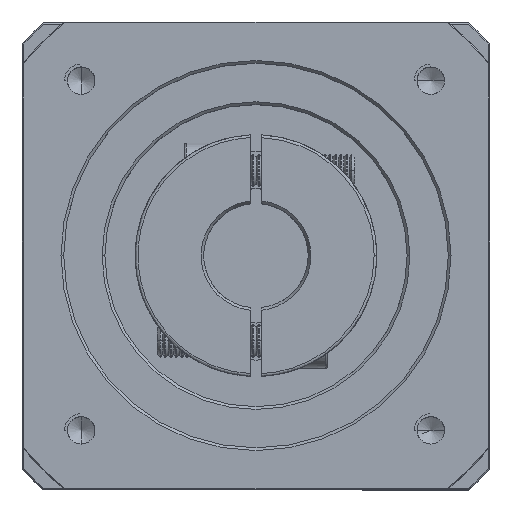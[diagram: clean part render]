
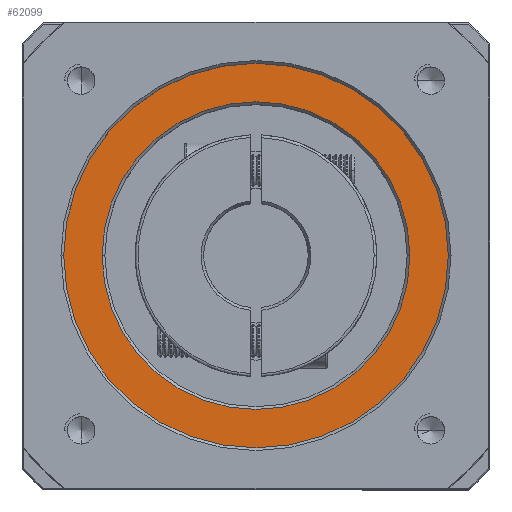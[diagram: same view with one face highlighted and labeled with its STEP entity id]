
A CAD part, top view. The second image highlights one B-rep face of the part: STEP entity #62099.
In plain terms, the highlighted planar face has unit normal (0, 0, 1).
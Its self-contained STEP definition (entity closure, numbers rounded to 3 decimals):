
#568 = CIRCLE ( 'NONE', #11037, 35. ) ;
#11037 = AXIS2_PLACEMENT_3D ( 'NONE', #76786, #77634, #107147 ) ;
#11832 = PLANE ( 'NONE',  #83793 ) ;
#13083 = FACE_OUTER_BOUND ( 'NONE', #13355, .T. ) ;
#13355 = EDGE_LOOP ( 'NONE', ( #52543, #41181 ) ) ;
#14430 = CIRCLE ( 'NONE', #60758, 35. ) ;
#16037 = EDGE_LOOP ( 'NONE', ( #108345, #67647 ) ) ;
#22080 = DIRECTION ( 'NONE',  ( 0., 0., 1. ) ) ;
#23559 = AXIS2_PLACEMENT_3D ( 'NONE', #53441, #73460, #122533 ) ;
#26311 = VERTEX_POINT ( 'NONE', #70924 ) ;
#29789 = AXIS2_PLACEMENT_3D ( 'NONE', #81321, #102605, #63071 ) ;
#41181 = ORIENTED_EDGE ( 'NONE', *, *, #115440, .T. ) ;
#43912 = CARTESIAN_POINT ( 'NONE',  ( -51.678, 33.802, 14.609 ) ) ;
#46433 = VERTEX_POINT ( 'NONE', #125448 ) ;
#52543 = ORIENTED_EDGE ( 'NONE', *, *, #58028, .T. ) ;
#53441 = CARTESIAN_POINT ( 'NONE',  ( -51.678, 33.802, 14.609 ) ) ;
#58028 = EDGE_CURVE ( 'NONE', #46433, #74926, #14430, .T. ) ;
#60758 = AXIS2_PLACEMENT_3D ( 'NONE', #71604, #22080, #111533 ) ;
#61682 = CIRCLE ( 'NONE', #29789, 28. ) ;
#62099 = ADVANCED_FACE ( 'NONE', ( #13083, #65924 ), #11832, .T. ) ;
#63071 = DIRECTION ( 'NONE',  ( 1., 0., 0. ) ) ;
#65924 = FACE_BOUND ( 'NONE', #16037, .T. ) ;
#67647 = ORIENTED_EDGE ( 'NONE', *, *, #109803, .T. ) ;
#70924 = CARTESIAN_POINT ( 'NONE',  ( -79.678, 33.802, 14.609 ) ) ;
#71604 = CARTESIAN_POINT ( 'NONE',  ( -51.678, 33.802, 14.609 ) ) ;
#73247 = CIRCLE ( 'NONE', #23559, 28. ) ;
#73460 = DIRECTION ( 'NONE',  ( 0., 0., -1. ) ) ;
#74354 = DIRECTION ( 'NONE',  ( 0., 0., 1. ) ) ;
#74926 = VERTEX_POINT ( 'NONE', #75175 ) ;
#75175 = CARTESIAN_POINT ( 'NONE',  ( -86.678, 33.802, 14.609 ) ) ;
#76786 = CARTESIAN_POINT ( 'NONE',  ( -51.678, 33.802, 14.609 ) ) ;
#77634 = DIRECTION ( 'NONE',  ( 0., 0., 1. ) ) ;
#81321 = CARTESIAN_POINT ( 'NONE',  ( -51.678, 33.802, 14.609 ) ) ;
#83793 = AXIS2_PLACEMENT_3D ( 'NONE', #43912, #74354, #83888 ) ;
#83888 = DIRECTION ( 'NONE',  ( 1., 0., 0. ) ) ;
#88654 = EDGE_CURVE ( 'NONE', #114897, #26311, #61682, .T. ) ;
#101107 = CARTESIAN_POINT ( 'NONE',  ( -23.678, 33.802, 14.609 ) ) ;
#102605 = DIRECTION ( 'NONE',  ( 0., 0., -1. ) ) ;
#107147 = DIRECTION ( 'NONE',  ( 1., 0., 0. ) ) ;
#108345 = ORIENTED_EDGE ( 'NONE', *, *, #88654, .T. ) ;
#109803 = EDGE_CURVE ( 'NONE', #26311, #114897, #73247, .T. ) ;
#111533 = DIRECTION ( 'NONE',  ( 1., 0., 0. ) ) ;
#114897 = VERTEX_POINT ( 'NONE', #101107 ) ;
#115440 = EDGE_CURVE ( 'NONE', #74926, #46433, #568, .T. ) ;
#122533 = DIRECTION ( 'NONE',  ( 1., 0., 0. ) ) ;
#125448 = CARTESIAN_POINT ( 'NONE',  ( -16.678, 33.802, 14.609 ) ) ;
